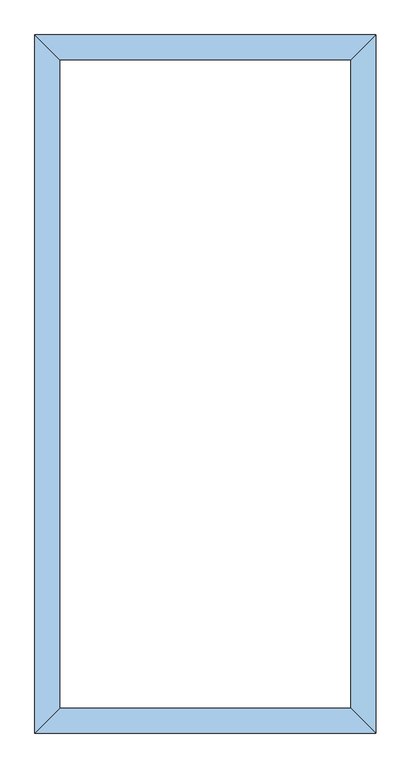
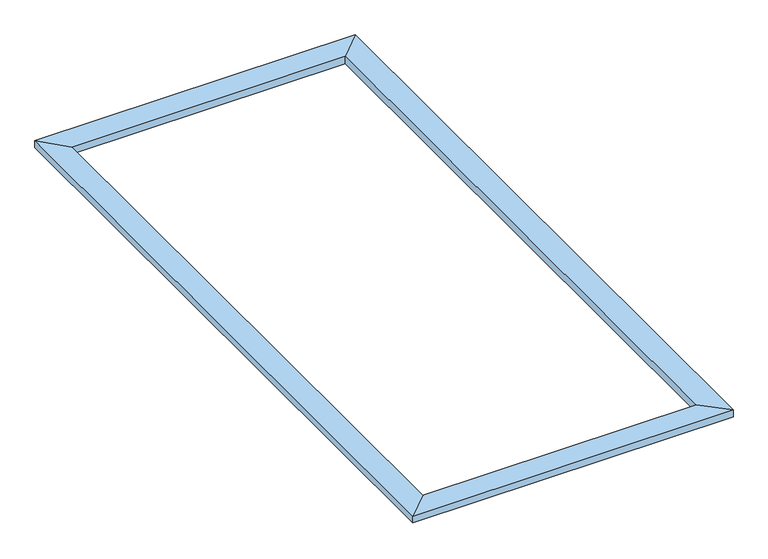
"""IFC4 building model written with IfcOpenShell, lengths in millimetres: window geometry, 泛水 : 泛水."""

from ifc_helpers import new_model, si_unit, origin, place, context, project, spatial, faceted_brep, source, transform, mapped, element, save


def window_a61185c5(model_context):
    return source(origin(), model_context, "Body", "Brep", [
        faceted_brep([(30022.1385293, 8470.1856454, 14200.0), (30022.1385293, 8470.1856454, 14100.0), (25622.1385293, 8470.1856454, 14100.0), (25622.1385293, 8470.1856454, 14200.0), (29702.1385293, 8150.1856454, 14193.6), (25942.1385293, 8150.1856454, 14193.6), (29702.1385293, 8150.1856454, 14085.6), (25942.1385293, 8150.1856454, 14085.6), (29727.080061, 8175.127177, 14100.0), (25917.1969977, 8175.127177, 14100.0), (25622.1385293, -529.8143546, 14100.0), (25622.1385293, -529.8143546, 14200.0), (25942.1385293, -209.8143546, 14193.6), (25942.1385293, -209.8143546, 14085.6), (25917.1969977, -234.7558862, 14100.0), (30022.1385293, -529.8143546, 14100.0), (30022.1385293, -529.8143546, 14200.0), (29702.1385293, -209.8143546, 14193.6), (29702.1385293, -209.8143546, 14085.6), (29727.080061, -234.7558862, 14100.0)], [[[0, 1, 2, 3]], [[4, 0, 3, 5]], [[6, 4, 5, 7]], [[8, 6, 7, 9]], [[3, 2, 10, 11]], [[5, 3, 11, 12]], [[7, 5, 12, 13]], [[9, 7, 13, 14]], [[11, 10, 15, 16]], [[12, 11, 16, 17]], [[13, 12, 17, 18]], [[14, 13, 18, 19]], [[16, 15, 1, 0]], [[17, 16, 0, 4]], [[18, 17, 4, 6]], [[19, 18, 6, 8]], [[1, 15, 10, 2], [9, 14, 19, 8]]]),
    ])


if __name__ == "__main__":
    model = new_model("IFC4")
    model_context = context("Model", 3, world=origin())
    ifc_project = project(units=[si_unit("LENGTHUNIT", "METRE", prefix="MILLI")], contexts=[model_context])
    site = spatial("IfcSite", under=ifc_project)
    building = spatial("IfcBuilding", under=site)
    placement = place(None, origin())
    window_shape = window_a61185c5(model_context)
    element("IfcWindow", 1, ObjectType="泛水 : 泛水", at=placement, inside=building, context=model_context, shape_type="MappedRepresentation", body=[
        mapped(window_shape, transform((0.0, 0.0, 0.0), x_axis=(1.0, 0.0, 0.0), y_axis=(0.0, 1.0, 0.0), z_axis=(0.0, 0.0, 1.0))),
    ])
    save(model, "model.ifc")
